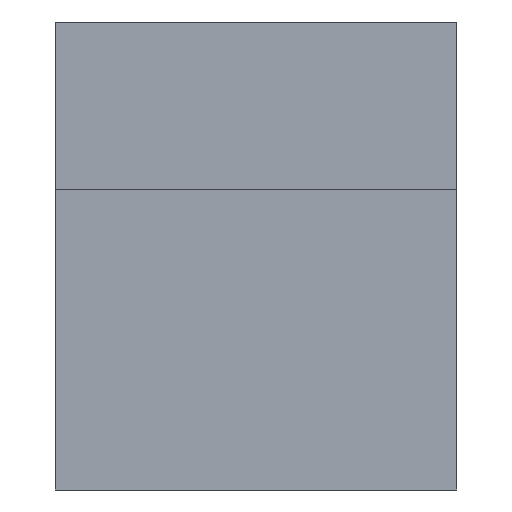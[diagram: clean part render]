
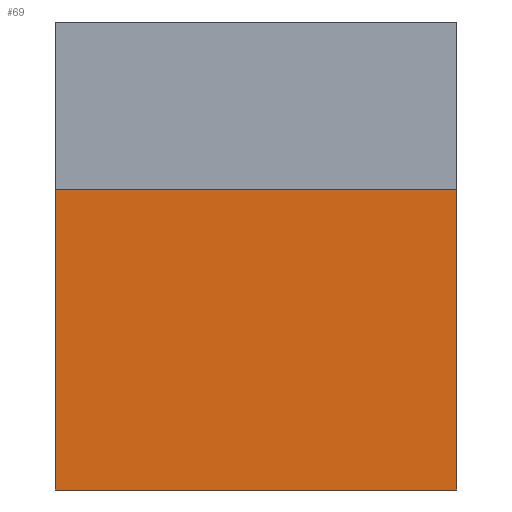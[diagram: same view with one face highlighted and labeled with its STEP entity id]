
A CAD part, front view. The second image highlights one B-rep face of the part: STEP entity #69.
In plain terms, the highlighted planar face has unit normal (0, -1, 0).
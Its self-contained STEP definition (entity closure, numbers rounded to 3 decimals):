
#47=FACE_OUTER_BOUND('',#118,.T.);
#69=ADVANCED_FACE('',(#47),#91,.F.);
#91=PLANE('',#413);
#118=EDGE_LOOP('',(#163,#164,#165,#166));
#163=ORIENTED_EDGE('',*,*,#275,.F.);
#164=ORIENTED_EDGE('',*,*,#281,.F.);
#165=ORIENTED_EDGE('',*,*,#278,.F.);
#166=ORIENTED_EDGE('',*,*,#267,.F.);
#235=VERTEX_POINT('',#534);
#236=VERTEX_POINT('',#535);
#243=VERTEX_POINT('',#551);
#245=VERTEX_POINT('',#557);
#267=EDGE_CURVE('',#235,#236,#315,.T.);
#275=EDGE_CURVE('',#243,#235,#323,.T.);
#278=EDGE_CURVE('',#236,#245,#326,.T.);
#281=EDGE_CURVE('',#245,#243,#329,.T.);
#315=LINE('',#533,#363);
#323=LINE('',#550,#371);
#326=LINE('',#556,#374);
#329=LINE('',#562,#377);
#363=VECTOR('',#436,1.);
#371=VECTOR('',#446,1.);
#374=VECTOR('',#451,1.);
#377=VECTOR('',#456,1.);
#413=AXIS2_PLACEMENT_3D('',#566,#462,#463);
#436=DIRECTION('',(1.,0.,0.));
#446=DIRECTION('',(0.,0.,1.));
#451=DIRECTION('',(0.,0.,-1.));
#456=DIRECTION('',(-1.,0.,0.));
#462=DIRECTION('',(0.,1.,0.));
#463=DIRECTION('',(0.,0.,1.));
#533=CARTESIAN_POINT('',(-30.,85.,95.));
#534=CARTESIAN_POINT('',(-30.,85.,95.));
#535=CARTESIAN_POINT('',(30.,85.,95.));
#550=CARTESIAN_POINT('',(-30.,85.,50.));
#551=CARTESIAN_POINT('',(-30.,85.,50.));
#556=CARTESIAN_POINT('',(30.,85.,95.));
#557=CARTESIAN_POINT('',(30.,85.,50.));
#562=CARTESIAN_POINT('',(30.,85.,50.));
#566=CARTESIAN_POINT('',(0.,85.,0.));
